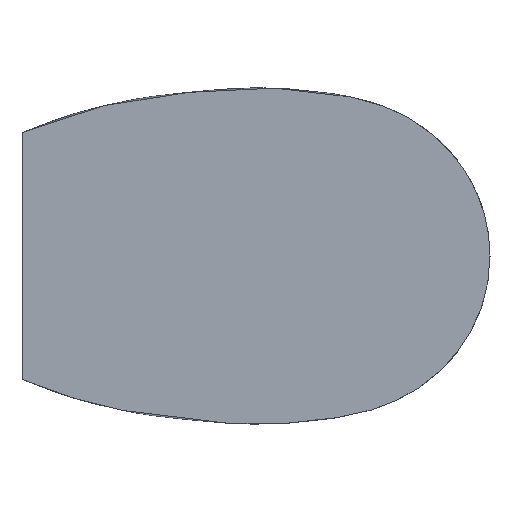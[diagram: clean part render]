
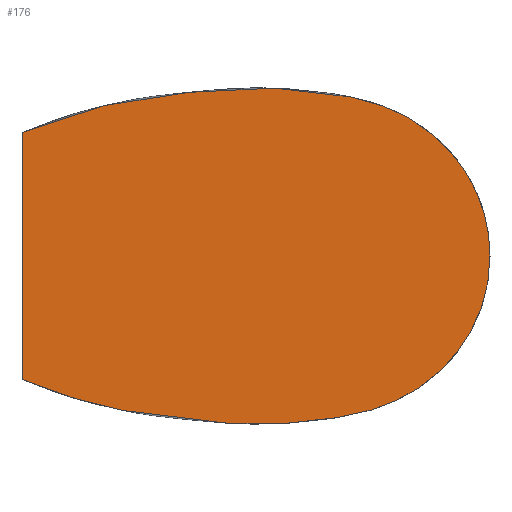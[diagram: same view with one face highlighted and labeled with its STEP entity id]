
A CAD part, left-side view. The second image highlights one B-rep face of the part: STEP entity #176.
In plain terms, the highlighted planar face has unit normal (-1, 0, 0).
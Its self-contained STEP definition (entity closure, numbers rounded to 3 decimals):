
#6=DIRECTION('',(0.,0.,1.));
#7=VECTOR('',#6,1.599);
#8=CARTESIAN_POINT('',(-9.,-0.3,-0.799));
#9=LINE('',#8,#7);
#10=CARTESIAN_POINT('',(-9.,-0.3,0.799));
#11=CARTESIAN_POINT('',(-9.,-0.358,0.824));
#12=CARTESIAN_POINT('',(-9.,-0.476,0.87));
#13=CARTESIAN_POINT('',(-9.,-0.656,0.928));
#14=CARTESIAN_POINT('',(-9.,-0.837,0.977));
#15=CARTESIAN_POINT('',(-9.,-1.022,1.015));
#16=CARTESIAN_POINT('',(-9.,-1.178,1.039));
#17=CARTESIAN_POINT('',(-9.,-1.305,1.052));
#18=CARTESIAN_POINT('',(-9.,-1.402,1.061));
#19=CARTESIAN_POINT('',(-9.,-1.499,1.071));
#20=CARTESIAN_POINT('',(-9.,-1.632,1.083));
#21=CARTESIAN_POINT('',(-9.,-1.816,1.091));
#22=CARTESIAN_POINT('',(-9.,-2.053,1.084));
#23=CARTESIAN_POINT('',(-9.,-2.265,1.06));
#24=CARTESIAN_POINT('',(-9.,-2.436,1.029));
#25=CARTESIAN_POINT('',(-9.,-2.609,0.988));
#26=CARTESIAN_POINT('',(-9.,-2.816,0.899));
#27=CARTESIAN_POINT('',(-9.,-3.034,0.735));
#28=CARTESIAN_POINT('',(-9.,-3.174,0.555));
#29=CARTESIAN_POINT('',(-9.,-3.254,0.394));
#30=CARTESIAN_POINT('',(-9.,-3.297,0.266));
#31=CARTESIAN_POINT('',(-9.,-3.324,0.134));
#32=CARTESIAN_POINT('',(-9.,-3.329,0.044));
#33=CARTESIAN_POINT('',(-9.,-3.329,0.));
#35=CARTESIAN_POINT('',(-9.,-3.329,0.));
#36=CARTESIAN_POINT('',(-9.,-3.329,-0.044));
#37=CARTESIAN_POINT('',(-9.,-3.324,-0.134));
#38=CARTESIAN_POINT('',(-9.,-3.297,-0.266));
#39=CARTESIAN_POINT('',(-9.,-3.254,-0.394));
#40=CARTESIAN_POINT('',(-9.,-3.174,-0.555));
#41=CARTESIAN_POINT('',(-9.,-3.034,-0.735));
#42=CARTESIAN_POINT('',(-9.,-2.816,-0.899));
#43=CARTESIAN_POINT('',(-9.,-2.609,-0.988));
#44=CARTESIAN_POINT('',(-9.,-2.436,-1.029));
#45=CARTESIAN_POINT('',(-9.,-2.265,-1.06));
#46=CARTESIAN_POINT('',(-9.,-2.053,-1.084));
#47=CARTESIAN_POINT('',(-9.,-1.816,-1.091));
#48=CARTESIAN_POINT('',(-9.,-1.632,-1.083));
#49=CARTESIAN_POINT('',(-9.,-1.499,-1.071));
#50=CARTESIAN_POINT('',(-9.,-1.402,-1.061));
#51=CARTESIAN_POINT('',(-9.,-1.305,-1.052));
#52=CARTESIAN_POINT('',(-9.,-1.178,-1.039));
#53=CARTESIAN_POINT('',(-9.,-1.022,-1.015));
#54=CARTESIAN_POINT('',(-9.,-0.837,-0.977));
#55=CARTESIAN_POINT('',(-9.,-0.656,-0.928));
#56=CARTESIAN_POINT('',(-9.,-0.476,-0.87));
#57=CARTESIAN_POINT('',(-9.,-0.358,-0.824));
#58=CARTESIAN_POINT('',(-9.,-0.3,-0.799));
#141=CARTESIAN_POINT('',(-9.,-0.3,-0.799));
#142=CARTESIAN_POINT('',(-9.,-0.3,0.799));
#143=VERTEX_POINT('',#141);
#144=VERTEX_POINT('',#142);
#145=VERTEX_POINT('',#35);
#164=CARTESIAN_POINT('',(-9.,0.,0.));
#165=DIRECTION('',(1.,0.,0.));
#166=DIRECTION('',(0.,0.,-1.));
#167=AXIS2_PLACEMENT_3D('',#164,#165,#166);
#168=PLANE('',#167);
#169=ORIENTED_EDGE('',*,*,#151,.T.);
#171=ORIENTED_EDGE('',*,*,#170,.T.);
#173=ORIENTED_EDGE('',*,*,#172,.T.);
#174=EDGE_LOOP('',(#169,#171,#173));
#175=FACE_OUTER_BOUND('',#174,.F.);
#176=ADVANCED_FACE('',(#175),#168,.F.);
#34=B_SPLINE_CURVE_WITH_KNOTS('',3,(#10,#11,#12,#13,#14,#15,#16,#17,#18,#19,#20,
#21,#22,#23,#24,#25,#26,#27,#28,#29,#30,#31,#32,#33),.UNSPECIFIED.,.F.,.F.,(4,1,
1,1,1,1,1,1,1,1,1,1,1,1,1,1,1,1,1,1,1,4),(0.,0.052,
0.104,0.155,0.206,0.258,
0.285,0.311,0.338,0.365,
0.421,0.489,0.56,0.596,
0.632,0.705,0.779,0.853,
0.89,0.927,0.964,1.),.UNSPECIFIED.);
#59=B_SPLINE_CURVE_WITH_KNOTS('',3,(#35,#36,#37,#38,#39,#40,#41,#42,#43,#44,#45,
#46,#47,#48,#49,#50,#51,#52,#53,#54,#55,#56,#57,#58),.UNSPECIFIED.,.F.,.F.,(4,1,
1,1,1,1,1,1,1,1,1,1,1,1,1,1,1,1,1,1,1,4),(0.,0.036,
0.073,0.11,0.147,0.221,
0.295,0.368,0.404,0.44,
0.511,0.579,0.635,0.662,
0.689,0.715,0.742,0.794,
0.845,0.896,0.948,1.),.UNSPECIFIED.);
#151=EDGE_CURVE('',#143,#144,#9,.T.);
#170=EDGE_CURVE('',#144,#145,#34,.T.);
#172=EDGE_CURVE('',#145,#143,#59,.T.);
